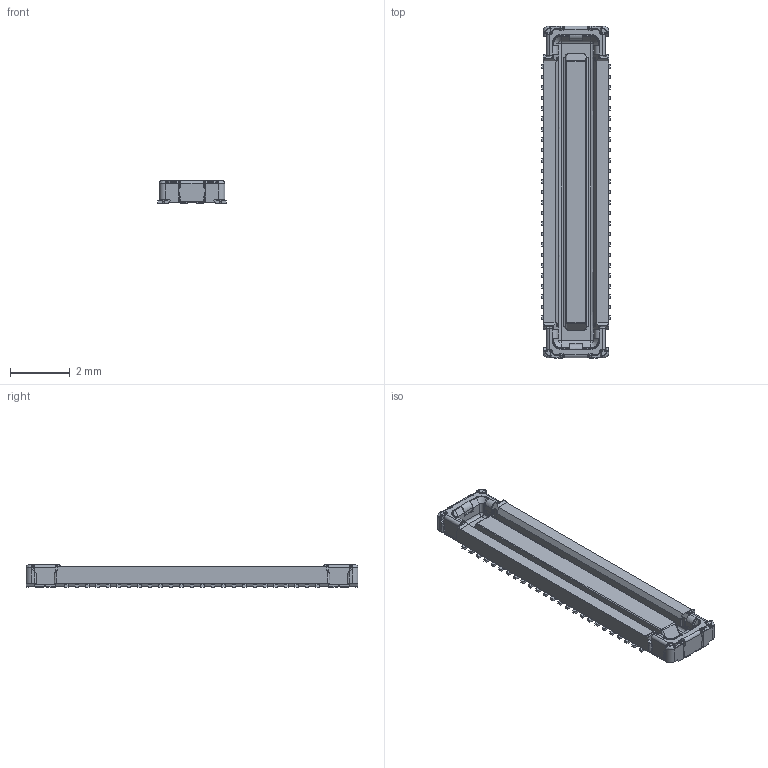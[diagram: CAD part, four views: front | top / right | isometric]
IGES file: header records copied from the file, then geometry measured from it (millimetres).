
Start section: SolidWorks IGES file using analytic representation for surfaces
Global section: file name: Q:\Kamikawa_Hisako\170209\xx_5863_0xx_xxx_xxx+\24_5863_050_104_829_+_.IGS; native system: SolidWorks 2014; preprocessor: SolidWorks 2014; author: user; date: 170213.145119; units: millimetre
Bounding box: 2.3 x 11.1 x 0.76 mm (x, y, z)
Surface area: 99.4 mm2 (no closed solid volume)
Topology: 0 solids, 0 shells, 1411 faces, 8961 edges, 8901 vertices
Faces by surface type: bspline 927, revolution 484
